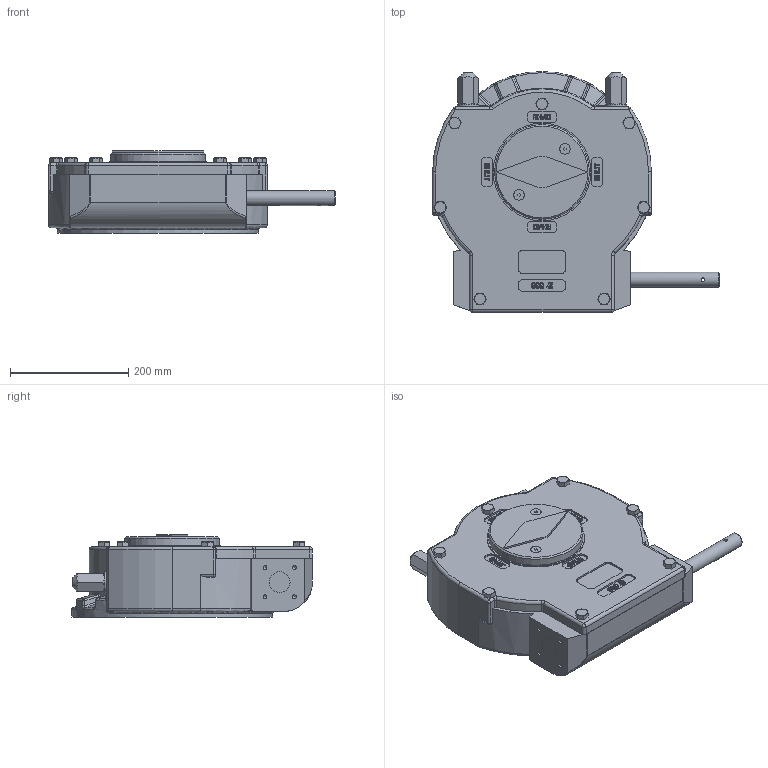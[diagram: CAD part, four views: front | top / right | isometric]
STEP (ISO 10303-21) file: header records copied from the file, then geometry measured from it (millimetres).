
FILE_DESCRIPTION( ( 'Unknown' ), '1' );
FILE_NAME( 'M:/Current Drawings/Internet datasheets/4 - STEP/AB6800W LH.stp', 'Unknown', ( 'Unknown' ), ( 'Unknown' ), 'PSStep 15.0.49', 'Unknown', ' ' );
FILE_SCHEMA( ( 'AUTOMOTIVE_DESIGN { 1 0 10303 214 1 1 1 1 }' ) );
Length unit declared in the file: millimetre
Products named in the file (1): 12FZ10P010M00
Bounding box: 485 x 407.5 x 138.9 mm (x, y, z)
Volume: 8541531 mm3; surface area: 1025846 mm2
Topology: 1 solids, 33 shells, 1707 faces, 4378 edges, 2725 vertices
Faces by surface type: plane 540, cylinder 490, torus 263, cone 242, sphere 72, bspline 62, extrusion 38
Full cylindrical faces by diameter (mm): 6 x1, 6.647 x18, 8 x6, 9 x2, 10.106 x14, 12 x7, 13.835 x16, 14 x7, 17.294 x18, 17.92 x2, 25 x1, 30 x1, 35 x2, 36 x2, 38 x2, 125.95 x2, 130 x6, 135 x1, 140 x1, 146 x1, 151.6 x1, 160 x1, 165 x1, 340 x1
Entity records: 78642 total; most frequent: CARTESIAN_POINT 27205, ORIENTED_EDGE 8006, DIRECTION 7364, EDGE_CURVE 4003, AXIS2_PLACEMENT_3D 3114, VERTEX_POINT 2643, EDGE_LOOP 1985, FACE_OUTER_BOUND 1830
